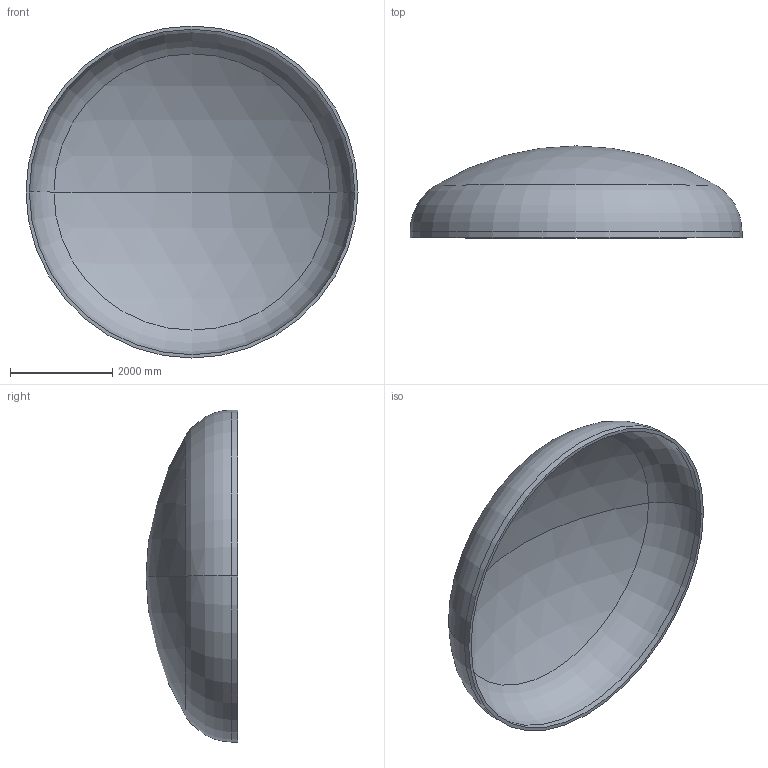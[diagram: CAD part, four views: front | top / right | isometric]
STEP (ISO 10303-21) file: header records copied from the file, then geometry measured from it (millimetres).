
FILE_DESCRIPTION (( 'STEP AP203' ), '1' );
FILE_NAME ('DIN 28013 Korbbogenform_-_Boden DIN 28013 - 6500 x 120 - I - s=66.step', '2016-07-04T10:42:55', ( '' ), ( '' ), 'SwSTEP 2.0', 'SolidWorks 2013', '' );
FILE_SCHEMA (( 'CONFIG_CONTROL_DESIGN' ));
Length unit declared in the file: millimetre
Products named in the file (1): DIN 28013 Korbbogenform_-_Boden DIN 28013 - 6500 x 120 - I - s=66
Bounding box: 6500 x 1798.5 x 6500 mm (x, y, z)
Volume: 3152275423.2 mm3; surface area: 96866642.8 mm2
Topology: 1 solids, 1 shells, 13 faces, 24 edges, 14 vertices
Faces by surface type: torus 4, cylinder 4, sphere 4, plane 1
Entity records: 407 total; most frequent: DIRECTION 72, CARTESIAN_POINT 52, ORIENTED_EDGE 48, AXIS2_PLACEMENT_3D 34, EDGE_CURVE 24, CIRCLE 20, EDGE_LOOP 14, VERTEX_POINT 14
